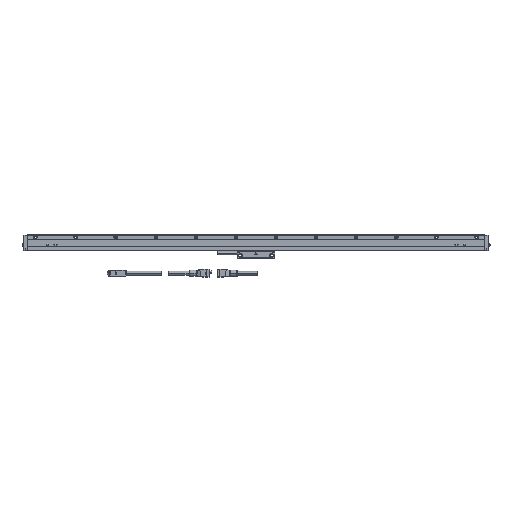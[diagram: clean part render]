
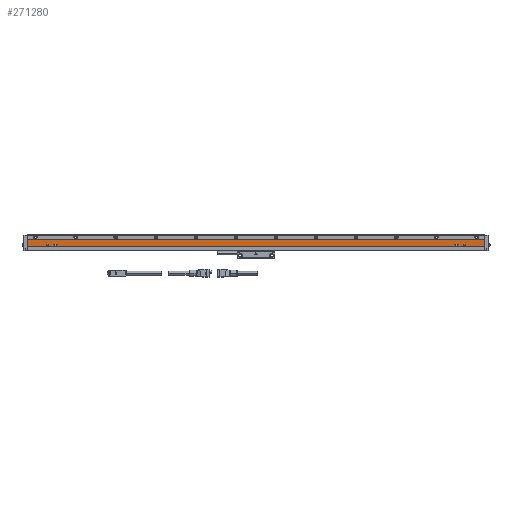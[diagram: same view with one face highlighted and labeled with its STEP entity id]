
A CAD part, front view. The second image highlights one B-rep face of the part: STEP entity #271280.
In plain terms, the highlighted planar face has unit normal (0, -1, 0) as drawn and (-1, 0, 0) by its records, which use the part's own axes.
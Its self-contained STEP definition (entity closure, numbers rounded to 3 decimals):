
#261820=CARTESIAN_POINT('',(24.2,80.2,1397.869));
#261830=VERTEX_POINT('',#261820);
#261910=CARTESIAN_POINT('',(24.2,80.2,1396.667));
#261920=VERTEX_POINT('',#261910);
#261950=CARTESIAN_POINT('',(24.2,80.2,300.));
#261960=DIRECTION('',(0.,0.,1.));
#261970=VECTOR('',#261960,1.);
#261980=LINE('',#261950,#261970);
#261990=EDGE_CURVE('',#261920,#261830,#261980,.T.);
#269250=CARTESIAN_POINT('',(24.2,92.8,880.5));
#269260=DIRECTION('',(0.,0.,1.));
#269270=VECTOR('',#269260,1.);
#269280=LINE('',#269250,#269270);
#269290=CARTESIAN_POINT('',(24.2,92.8,310.));
#269300=VERTEX_POINT('',#269290);
#269310=CARTESIAN_POINT('',(24.2,92.8,1450.));
#269320=VERTEX_POINT('',#269310);
#269330=EDGE_CURVE('',#269300,#269320,#269280,.T.);
#269510=CARTESIAN_POINT('',(24.2,93.,301.));
#269520=DIRECTION('',(1.,0.,0.));
#269530=DIRECTION('',(0.,-1.,0.));
#269540=AXIS2_PLACEMENT_3D('',#269510,#269520,#269530);
#269550=PLANE('',#269540);
#269560=CARTESIAN_POINT('',(24.2,75.2,880.5));
#269570=DIRECTION('',(0.,0.,1.));
#269580=VECTOR('',#269570,1.);
#269590=LINE('',#269560,#269580);
#269600=CARTESIAN_POINT('',(24.2,75.2,1400.));
#269610=VERTEX_POINT('',#269600);
#269620=CARTESIAN_POINT('',(24.2,75.2,1450.));
#269630=VERTEX_POINT('',#269620);
#269640=EDGE_CURVE('',#269610,#269630,#269590,.T.);
#269650=ORIENTED_EDGE('',*,*,#269640,.T.);
#269660=CARTESIAN_POINT('',(24.2,0.,1349.867));
#269670=DIRECTION('',(0.,-0.832,-0.555));
#269680=VECTOR('',#269670,1.);
#269690=LINE('',#269660,#269680);
#269700=CARTESIAN_POINT('',(24.2,80.2,1403.333));
#269710=VERTEX_POINT('',#269700);
#269720=EDGE_CURVE('',#269710,#269610,#269690,.T.);
#269730=ORIENTED_EDGE('',*,*,#269720,.T.);
#269740=CARTESIAN_POINT('',(24.2,80.2,300.));
#269750=DIRECTION('',(0.,0.,1.));
#269760=VECTOR('',#269750,1.);
#269770=LINE('',#269740,#269760);
#269780=CARTESIAN_POINT('',(24.2,80.2,1402.131));
#269790=VERTEX_POINT('',#269780);
#269800=EDGE_CURVE('',#269790,#269710,#269770,.T.);
#269810=ORIENTED_EDGE('',*,*,#269800,.T.);
#269820=CARTESIAN_POINT('',(24.2,0.,1348.665));
#269830=DIRECTION('',(0.,0.832,0.555));
#269840=VECTOR('',#269830,1.);
#269850=LINE('',#269820,#269840);
#269860=CARTESIAN_POINT('',(24.2,77.003,1400.));
#269870=VERTEX_POINT('',#269860);
#269880=EDGE_CURVE('',#269870,#269790,#269850,.T.);
#269890=ORIENTED_EDGE('',*,*,#269880,.T.);
#269900=CARTESIAN_POINT('',(24.2,0.,1451.335));
#269910=DIRECTION('',(0.,-0.832,0.555));
#269920=VECTOR('',#269910,1.);
#269930=LINE('',#269900,#269920);
#269940=EDGE_CURVE('',#261830,#269870,#269930,.T.);
#269950=ORIENTED_EDGE('',*,*,#269940,.T.);
#269960=ORIENTED_EDGE('',*,*,#261990,.T.);
#269970=CARTESIAN_POINT('',(24.2,0.,1450.133));
#269980=DIRECTION('',(0.,0.832,-0.555));
#269990=VECTOR('',#269980,1.);
#270000=LINE('',#269970,#269990);
#270010=EDGE_CURVE('',#269610,#261920,#270000,.T.);
#270020=ORIENTED_EDGE('',*,*,#270010,.T.);
#270030=CARTESIAN_POINT('',(24.2,75.2,1380.));
#270040=VERTEX_POINT('',#270030);
#270050=EDGE_CURVE('',#270040,#269610,#269590,.T.);
#270060=ORIENTED_EDGE('',*,*,#270050,.T.);
#270070=CARTESIAN_POINT('',(24.2,0.,1329.867));
#270080=DIRECTION('',(0.,-0.832,-0.555));
#270090=VECTOR('',#270080,1.);
#270100=LINE('',#270070,#270090);
#270110=CARTESIAN_POINT('',(24.2,81.2,1384.));
#270120=VERTEX_POINT('',#270110);
#270130=EDGE_CURVE('',#270120,#270040,#270100,.T.);
#270140=ORIENTED_EDGE('',*,*,#270130,.T.);
#270150=CARTESIAN_POINT('',(24.2,81.2,300.));
#270160=DIRECTION('',(0.,0.,1.));
#270170=VECTOR('',#270160,1.);
#270180=LINE('',#270150,#270170);
#270190=CARTESIAN_POINT('',(24.2,81.2,1376.));
#270200=VERTEX_POINT('',#270190);
#270210=EDGE_CURVE('',#270200,#270120,#270180,.T.);
#270220=ORIENTED_EDGE('',*,*,#270210,.T.);
#270230=CARTESIAN_POINT('',(24.2,0.,1430.133));
#270240=DIRECTION('',(0.,0.832,-0.555));
#270250=VECTOR('',#270240,1.);
#270260=LINE('',#270230,#270250);
#270270=EDGE_CURVE('',#270040,#270200,#270260,.T.);
#270280=ORIENTED_EDGE('',*,*,#270270,.T.);
#270290=CARTESIAN_POINT('',(24.2,75.2,380.));
#270300=VERTEX_POINT('',#270290);
#270310=EDGE_CURVE('',#270300,#270040,#269590,.T.);
#270320=ORIENTED_EDGE('',*,*,#270310,.T.);
#270330=CARTESIAN_POINT('',(24.2,0.,329.867));
#270340=DIRECTION('',(0.,-0.832,-0.555));
#270350=VECTOR('',#270340,1.);
#270360=LINE('',#270330,#270350);
#270370=CARTESIAN_POINT('',(24.2,81.2,384.));
#270380=VERTEX_POINT('',#270370);
#270390=EDGE_CURVE('',#270380,#270300,#270360,.T.);
#270400=ORIENTED_EDGE('',*,*,#270390,.T.);
#270410=CARTESIAN_POINT('',(24.2,81.2,300.));
#270420=DIRECTION('',(0.,0.,1.));
#270430=VECTOR('',#270420,1.);
#270440=LINE('',#270410,#270430);
#270450=CARTESIAN_POINT('',(24.2,81.2,376.));
#270460=VERTEX_POINT('',#270450);
#270470=EDGE_CURVE('',#270460,#270380,#270440,.T.);
#270480=ORIENTED_EDGE('',*,*,#270470,.T.);
#270490=CARTESIAN_POINT('',(24.2,0.,430.133));
#270500=DIRECTION('',(0.,0.832,-0.555));
#270510=VECTOR('',#270500,1.);
#270520=LINE('',#270490,#270510);
#270530=EDGE_CURVE('',#270300,#270460,#270520,.T.);
#270540=ORIENTED_EDGE('',*,*,#270530,.T.);
#270550=CARTESIAN_POINT('',(24.2,75.2,880.5));
#270560=DIRECTION('',(0.,0.,1.));
#270570=VECTOR('',#270560,1.);
#270580=LINE('',#270550,#270570);
#270590=CARTESIAN_POINT('',(24.2,75.2,360.));
#270600=VERTEX_POINT('',#270590);
#270610=EDGE_CURVE('',#270600,#270300,#270580,.T.);
#270620=ORIENTED_EDGE('',*,*,#270610,.T.);
#270630=CARTESIAN_POINT('',(24.2,0.,309.867));
#270640=DIRECTION('',(0.,-0.832,-0.555));
#270650=VECTOR('',#270640,1.);
#270660=LINE('',#270630,#270650);
#270670=CARTESIAN_POINT('',(24.2,80.2,363.333));
#270680=VERTEX_POINT('',#270670);
#270690=EDGE_CURVE('',#270680,#270600,#270660,.T.);
#270700=ORIENTED_EDGE('',*,*,#270690,.T.);
#270710=CARTESIAN_POINT('',(24.2,80.2,300.));
#270720=DIRECTION('',(0.,0.,1.));
#270730=VECTOR('',#270720,1.);
#270740=LINE('',#270710,#270730);
#270750=CARTESIAN_POINT('',(24.2,80.2,362.131));
#270760=VERTEX_POINT('',#270750);
#270770=EDGE_CURVE('',#270760,#270680,#270740,.T.);
#270780=ORIENTED_EDGE('',*,*,#270770,.T.);
#270790=CARTESIAN_POINT('',(24.2,0.,308.665));
#270800=DIRECTION('',(0.,0.832,0.555));
#270810=VECTOR('',#270800,1.);
#270820=LINE('',#270790,#270810);
#270830=CARTESIAN_POINT('',(24.2,77.003,360.));
#270840=VERTEX_POINT('',#270830);
#270850=EDGE_CURVE('',#270840,#270760,#270820,.T.);
#270860=ORIENTED_EDGE('',*,*,#270850,.T.);
#270870=CARTESIAN_POINT('',(24.2,0.,411.335));
#270880=DIRECTION('',(0.,-0.832,0.555));
#270890=VECTOR('',#270880,1.);
#270900=LINE('',#270870,#270890);
#270910=CARTESIAN_POINT('',(24.2,80.2,357.869));
#270920=VERTEX_POINT('',#270910);
#270930=EDGE_CURVE('',#270920,#270840,#270900,.T.);
#270940=ORIENTED_EDGE('',*,*,#270930,.T.);
#270950=CARTESIAN_POINT('',(24.2,80.2,300.));
#270960=DIRECTION('',(0.,0.,1.));
#270970=VECTOR('',#270960,1.);
#270980=LINE('',#270950,#270970);
#270990=CARTESIAN_POINT('',(24.2,80.2,356.667));
#271000=VERTEX_POINT('',#270990);
#271010=EDGE_CURVE('',#271000,#270920,#270980,.T.);
#271020=ORIENTED_EDGE('',*,*,#271010,.T.);
#271030=CARTESIAN_POINT('',(24.2,0.,410.133));
#271040=DIRECTION('',(0.,0.832,-0.555));
#271050=VECTOR('',#271040,1.);
#271060=LINE('',#271030,#271050);
#271070=EDGE_CURVE('',#270600,#271000,#271060,.T.);
#271080=ORIENTED_EDGE('',*,*,#271070,.T.);
#271090=CARTESIAN_POINT('',(24.2,75.2,310.));
#271100=VERTEX_POINT('',#271090);
#271110=EDGE_CURVE('',#271100,#270600,#270580,.T.);
#271120=ORIENTED_EDGE('',*,*,#271110,.T.);
#271130=CARTESIAN_POINT('',(24.2,0.,310.));
#271140=DIRECTION('',(0.,1.,0.));
#271150=VECTOR('',#271140,1.);
#271160=LINE('',#271130,#271150);
#271170=EDGE_CURVE('',#271100,#269300,#271160,.T.);
#271180=ORIENTED_EDGE('',*,*,#271170,.F.);
#271190=ORIENTED_EDGE('',*,*,#269330,.F.);
#271200=CARTESIAN_POINT('',(24.2,0.,1450.));
#271210=DIRECTION('',(0.,1.,0.));
#271220=VECTOR('',#271210,1.);
#271230=LINE('',#271200,#271220);
#271240=EDGE_CURVE('',#269630,#269320,#271230,.T.);
#271250=ORIENTED_EDGE('',*,*,#271240,.T.);
#271260=EDGE_LOOP('',(#271250,#271190,#271180,#271120,#271080,#271020,
#270940,#270860,#270780,#270700,#270620,#270540,#270480,#270400,#270320,
#270280,#270220,#270140,#270060,#270020,#269960,#269950,#269890,#269810,
#269730,#269650));
#271270=FACE_OUTER_BOUND('',#271260,.T.);
#271280=ADVANCED_FACE('',(#271270),#269550,.F.);
